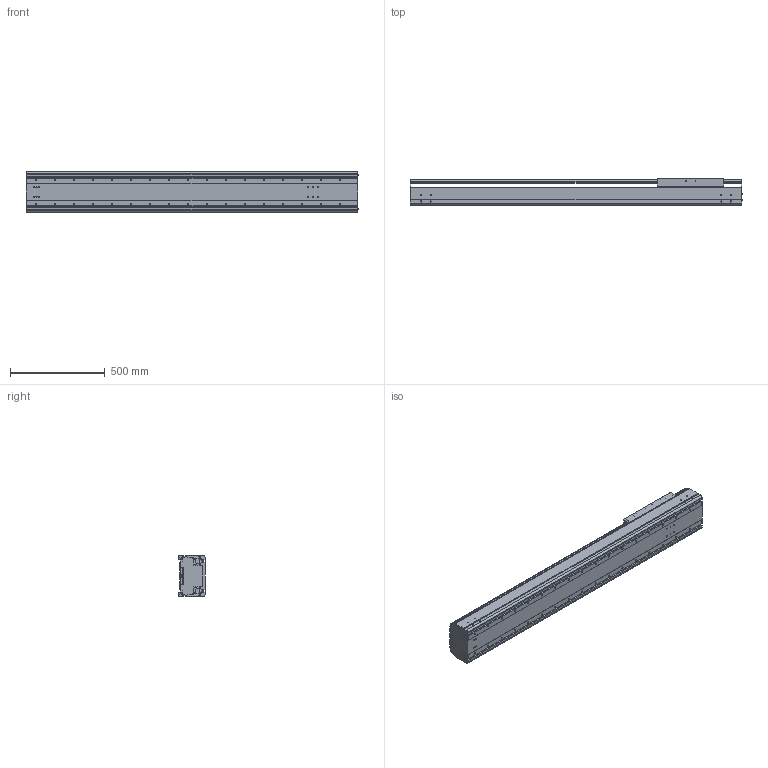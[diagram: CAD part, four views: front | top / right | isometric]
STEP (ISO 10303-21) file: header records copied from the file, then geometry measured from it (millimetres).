
FILE_DESCRIPTION((''),'2;1');
FILE_NAME('BE60G-ST-L_B-C5_IGS_PRT','2017-06-18T',(' '),(''),'PRO/ENGINEER BY PARAMETRIC TECHNOLOGY CORPORATION, 2015030','PRO/ENGINEER BY PARAMETRIC TECHNOLOGY CORPORATION, 2015030','');
FILE_SCHEMA(('CONFIG_CONTROL_DESIGN'));
Length unit declared in the file: millimetre
Products named in the file (1): BE60G-ST-L_B-C5_IGS_PRT
Bounding box: 1747.4 x 140 x 214 mm (x, y, z)
Volume: 14174038.6 mm3; surface area: 3731044.1 mm2
Topology: 2 solids, 162 shells, 1688 faces, 4730 edges, 3106 vertices
Faces by surface type: cylinder 880, plane 632, cone 128, sphere 24, torus 24
Entity records: 56534 total; most frequent: CARTESIAN_POINT 12986, DIRECTION 9140, ORIENTED_EDGE 8572, EDGE_CURVE 4602, AXIS2_PLACEMENT_3D 3427, VERTEX_POINT 3104, VECTOR 2286, LINE 2286
